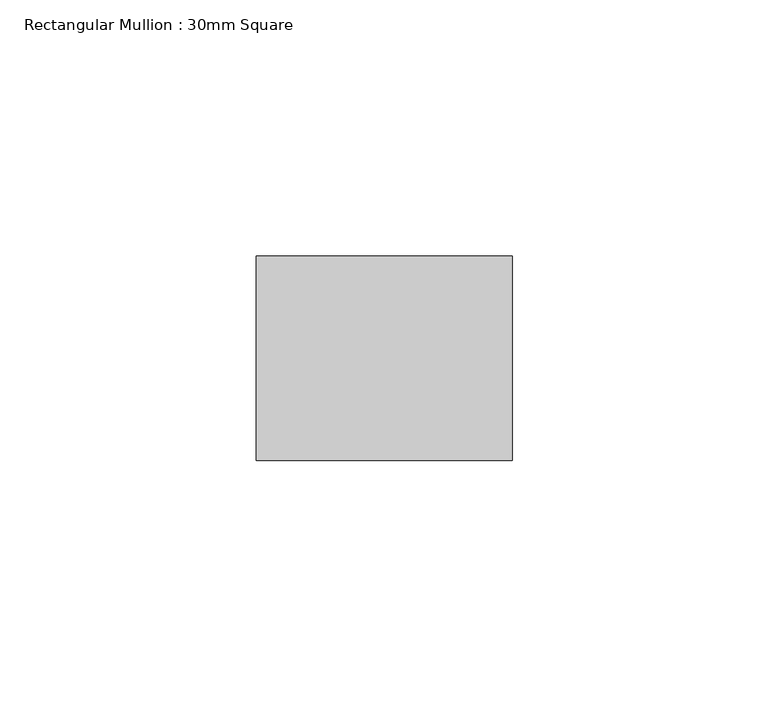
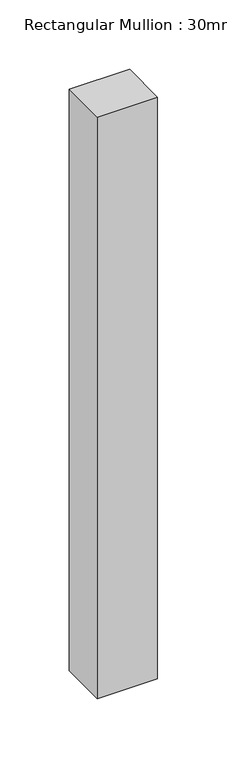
"""IFC4 building model written with IfcOpenShell, lengths in millimetres: member geometry, Rectangular Mullion : 30mm Square."""

from ifc_helpers import new_model, si_unit, frame, origin, place, context, project, spatial, polyline, outline, extrude, source, transform, mapped, element, save


def rectangular_mullion_30mm_square_1b7a25a7(model_context):
    return source(origin(), model_context, "Body", "SweptSolid", [
        extrude(outline(polyline([(25.0, 20.0), (25.0, -20.0), (-25.0, -20.0), (-25.0, 20.0), (25.0, 20.0)])), frame((0.0, 0.0, -510.7359313), z_axis=(0.0, 0.0, 1.0), x_axis=(1.0, 0.0, 0.0)), (0.0, 0.0, 1.0), 510.7359313),
    ])


if __name__ == "__main__":
    model = new_model("IFC4")
    model_context = context("Model", 3, world=origin())
    ifc_project = project(units=[si_unit("LENGTHUNIT", "METRE", prefix="MILLI")], contexts=[model_context])
    site = spatial("IfcSite", under=ifc_project)
    building = spatial("IfcBuilding", under=site)
    placement = place(None, origin())
    rectangular_mullion_30mm_square_shape = rectangular_mullion_30mm_square_1b7a25a7(model_context)
    element("IfcMember", 1, ObjectType="Rectangular Mullion : 30mm Square", at=placement, inside=building, context=model_context, shape_type="MappedRepresentation", body=[
        mapped(rectangular_mullion_30mm_square_shape, transform((0.0, 0.0, 0.0), x_axis=(1.0, 0.0, 0.0), y_axis=(0.0, 1.0, 0.0), z_axis=(0.0, 0.0, 1.0))),
    ])
    save(model, "model.ifc")
